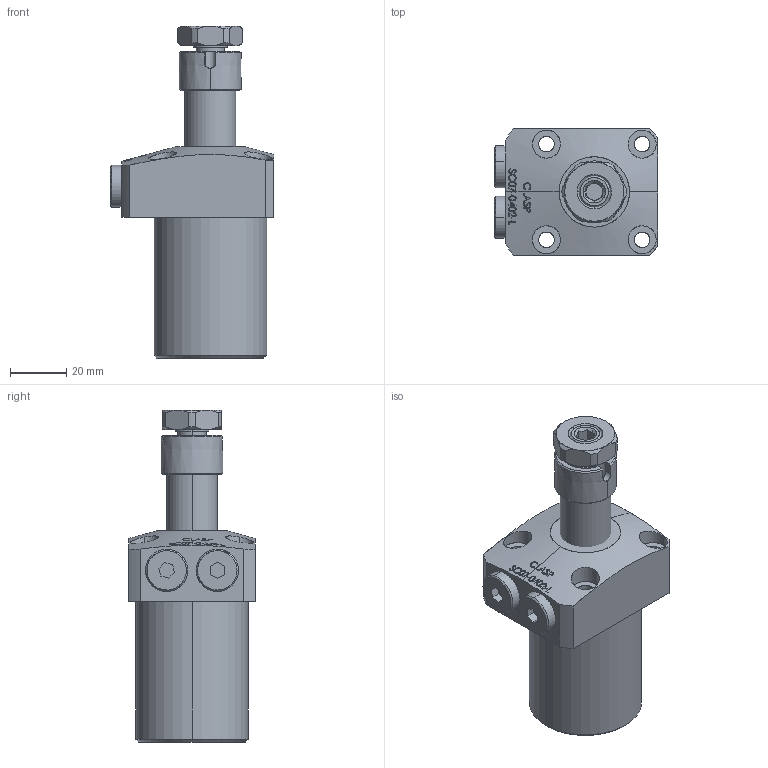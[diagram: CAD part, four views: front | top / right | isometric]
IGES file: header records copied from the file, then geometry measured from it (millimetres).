
Start section: SolidWorks IGES file using analytic representation for surfaces
Global section: file name: D:\karuppas\Clasp\3D model\SWING CYLINDER\Top Mounting swing cylinder\SC07-0402-L\SC07-0402-L.IGS; native system: SolidWorks 2017; preprocessor: SolidWorks 2017; author: pc; date: 220705.232013; units: millimetre
Bounding box: 58 x 45 x 118 mm (x, y, z)
Surface area: 27782.2 mm2 (no closed solid volume)
Topology: 0 solids, 0 shells, 357 faces, 5922 edges, 5921 vertices
Faces by surface type: bspline 244, revolution 113
